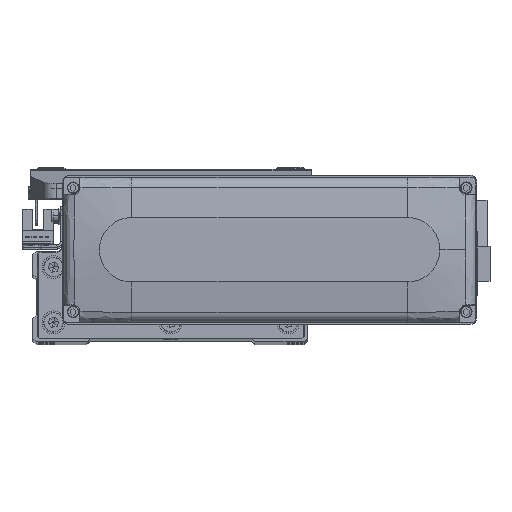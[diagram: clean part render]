
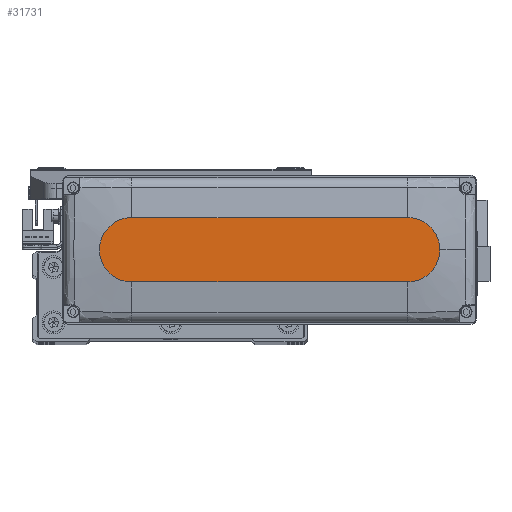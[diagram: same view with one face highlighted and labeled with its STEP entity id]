
A CAD part, top view. The second image highlights one B-rep face of the part: STEP entity #31731.
In plain terms, the highlighted planar face has unit normal (0, 0, 1).
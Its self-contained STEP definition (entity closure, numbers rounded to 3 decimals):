
#824 = DIRECTION ( 'NONE',  ( 1., 0., 0. ) ) ;
#2203 = AXIS2_PLACEMENT_3D ( 'NONE', #20095, #47594, #824 ) ;
#2729 = CIRCLE ( 'NONE', #4363, 14. ) ;
#3325 = CARTESIAN_POINT ( 'NONE',  ( 60., 14., 28.5 ) ) ;
#3725 = ORIENTED_EDGE ( 'NONE', *, *, #33228, .T. ) ;
#4363 = AXIS2_PLACEMENT_3D ( 'NONE', #14928, #42708, #10238 ) ;
#6610 = DIRECTION ( 'NONE',  ( 1., 0., 0. ) ) ;
#7324 = EDGE_CURVE ( 'NONE', #27698, #48060, #41938, .T. ) ;
#8035 = VERTEX_POINT ( 'NONE', #34865 ) ;
#8731 = CARTESIAN_POINT ( 'NONE',  ( 60., -14., 28.5 ) ) ;
#9591 = ORIENTED_EDGE ( 'NONE', *, *, #18214, .T. ) ;
#10238 = DIRECTION ( 'NONE',  ( 1., 0., 0. ) ) ;
#10327 = CARTESIAN_POINT ( 'NONE',  ( 74., 0., 28.5 ) ) ;
#10495 = CARTESIAN_POINT ( 'NONE',  ( -60., -14., 28.5 ) ) ;
#13237 = ORIENTED_EDGE ( 'NONE', *, *, #39147, .T. ) ;
#13560 = PLANE ( 'NONE',  #23876 ) ;
#14928 = CARTESIAN_POINT ( 'NONE',  ( 60., 0., 28.5 ) ) ;
#17476 = FACE_OUTER_BOUND ( 'NONE', #43138, .T. ) ;
#17718 = DIRECTION ( 'NONE',  ( 0., 0., 1. ) ) ;
#18214 = EDGE_CURVE ( 'NONE', #8035, #27698, #20869, .T. ) ;
#18300 = VERTEX_POINT ( 'NONE', #3325 ) ;
#18429 = DIRECTION ( 'NONE',  ( 0., 0., 1. ) ) ;
#20095 = CARTESIAN_POINT ( 'NONE',  ( 60., 0., 28.5 ) ) ;
#20869 = CIRCLE ( 'NONE', #28295, 14. ) ;
#21805 = CARTESIAN_POINT ( 'NONE',  ( -60., 0., 28.5 ) ) ;
#22781 = DIRECTION ( 'NONE',  ( -1., 0., 0. ) ) ;
#23876 = AXIS2_PLACEMENT_3D ( 'NONE', #49677, #17718, #33275 ) ;
#27698 = VERTEX_POINT ( 'NONE', #41275 ) ;
#28295 = AXIS2_PLACEMENT_3D ( 'NONE', #21805, #18429, #50099 ) ;
#31731 = ADVANCED_FACE ( 'NONE', ( #17476 ), #13560, .T. ) ;
#33228 = EDGE_CURVE ( 'NONE', #18300, #8035, #38592, .T. ) ;
#33275 = DIRECTION ( 'NONE',  ( 1., 0., 0. ) ) ;
#33730 = VECTOR ( 'NONE', #22781, 1000. ) ;
#34164 = CARTESIAN_POINT ( 'NONE',  ( -60., 14., 28.5 ) ) ;
#34865 = CARTESIAN_POINT ( 'NONE',  ( -60., 14., 28.5 ) ) ;
#35092 = EDGE_CURVE ( 'NONE', #36792, #18300, #2729, .T. ) ;
#35393 = VECTOR ( 'NONE', #6610, 1000. ) ;
#35609 = ORIENTED_EDGE ( 'NONE', *, *, #7324, .T. ) ;
#36792 = VERTEX_POINT ( 'NONE', #10327 ) ;
#38592 = LINE ( 'NONE', #34164, #33730 ) ;
#39147 = EDGE_CURVE ( 'NONE', #48060, #36792, #40400, .T. ) ;
#40400 = CIRCLE ( 'NONE', #2203, 14. ) ;
#41111 = ORIENTED_EDGE ( 'NONE', *, *, #35092, .T. ) ;
#41275 = CARTESIAN_POINT ( 'NONE',  ( -60., -14., 28.5 ) ) ;
#41938 = LINE ( 'NONE', #10495, #35393 ) ;
#42708 = DIRECTION ( 'NONE',  ( 0., 0., 1. ) ) ;
#43138 = EDGE_LOOP ( 'NONE', ( #3725, #9591, #35609, #13237, #41111 ) ) ;
#47594 = DIRECTION ( 'NONE',  ( 0., 0., 1. ) ) ;
#48060 = VERTEX_POINT ( 'NONE', #8731 ) ;
#49677 = CARTESIAN_POINT ( 'NONE',  ( 0., 0., 28.5 ) ) ;
#50099 = DIRECTION ( 'NONE',  ( 1., 0., 0. ) ) ;
